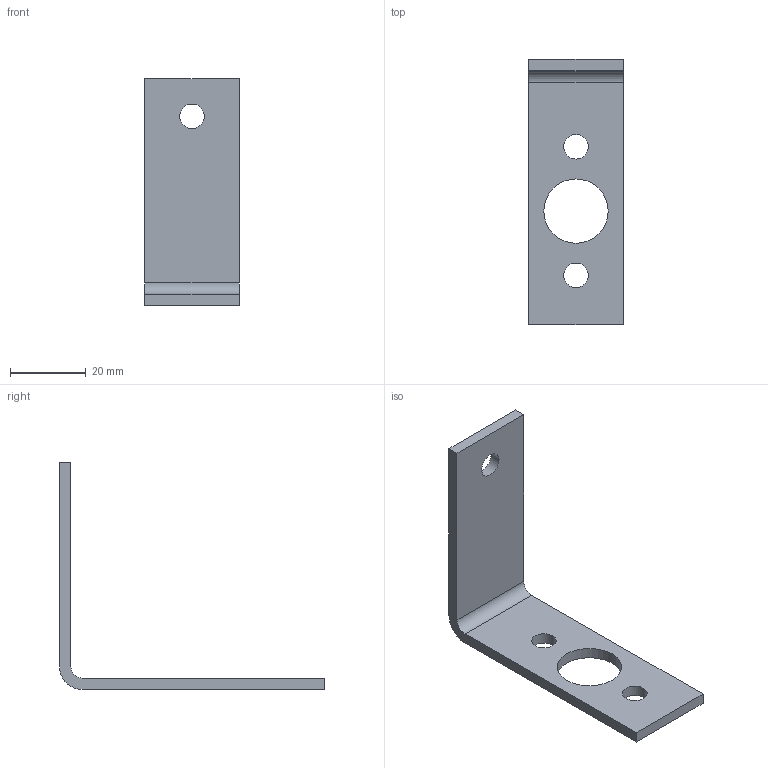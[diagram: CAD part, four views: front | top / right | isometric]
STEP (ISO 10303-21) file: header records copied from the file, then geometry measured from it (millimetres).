
FILE_DESCRIPTION((''),'2;1');
FILE_NAME('F:\AirCom-Produktdokumentation\Befestigungswinkel-Muttern\CAD\CAD AirCom\3D\B-BW00-09.stp','2008-09-29T15:38:57',('Frank Schroers'),(''),'Autodesk Inventor 2008','Autodesk Inventor 2008','');
FILE_SCHEMA(('AUTOMOTIVE_DESIGN { 1 0 10303 214 1 1 1 1 }'));
Length unit declared in the file: millimetre
Products named in the file (1): B-BW00-09
Bounding box: 25 x 70 x 60 mm (x, y, z)
Volume: 8400.6 mm3; surface area: 6844.8 mm2
Topology: 1 solids, 1 shells, 14 faces, 36 edges, 24 vertices
Faces by surface type: plane 8, cylinder 6
Full cylindrical faces by diameter (mm): 6.5 x3, 17 x1
Entity records: 454 total; most frequent: DIRECTION 74, CARTESIAN_POINT 71, ORIENTED_EDGE 64, EDGE_CURVE 32, AXIS2_PLACEMENT_3D 27, EDGE_LOOP 26, VERTEX_POINT 24, VECTOR 20
